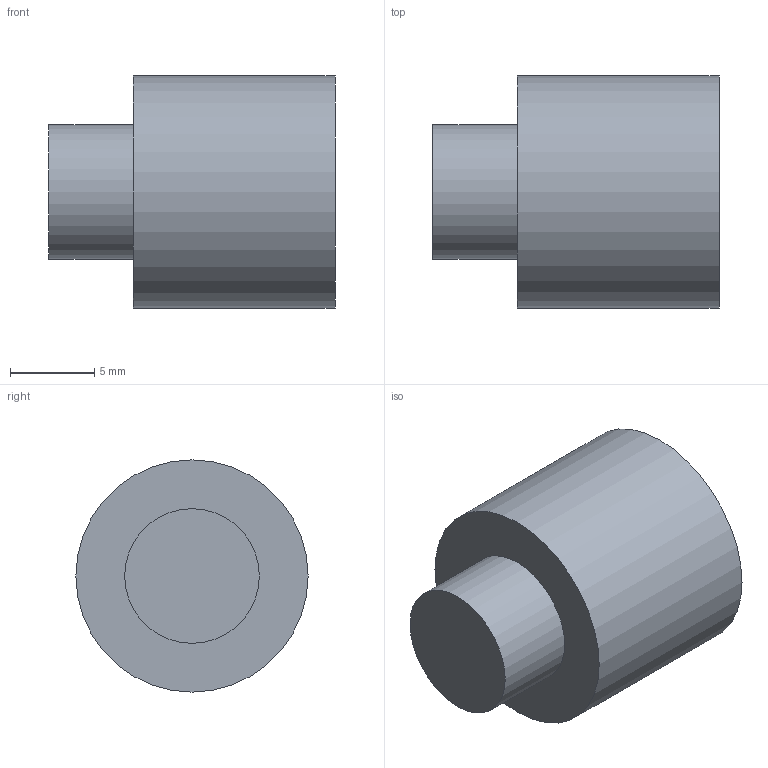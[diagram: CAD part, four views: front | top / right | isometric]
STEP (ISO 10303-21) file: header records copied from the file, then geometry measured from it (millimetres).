
FILE_DESCRIPTION(('Open CASCADE Model'),'2;1');
FILE_NAME('Open CASCADE Shape Model','2026-10-16T05:25:09',('Author'),( 'Open CASCADE'),'Open CASCADE STEP processor 7.9','Open CASCADE 7.9' ,'Unknown');
FILE_SCHEMA(('AUTOMOTIVE_DESIGN { 1 0 10303 214 1 1 1 1 }'));
Length unit declared in the file: millimetre
Products named in the file (1): Open CASCADE STEP translator 7.9 24
Bounding box: 17 x 13.8 x 13.8 mm (x, y, z)
Volume: 1783.2 mm3; surface area: 1117.5 mm2
Topology: 1 solids, 1 shells, 7 faces, 9 edges, 6 vertices
Faces by surface type: plane 4, cylinder 3
Full cylindrical faces by diameter (mm): 6.1 x1, 8 x1, 13.8 x1
Entity records: 282 total; most frequent: CARTESIAN_POINT 53, DIRECTION 47, ORIENTED_EDGE 18, PCURVE 18, DEFINITIONAL_REPRESENTATION 18, LINE 15, VECTOR 15, AXIS2_PLACEMENT_3D 14
